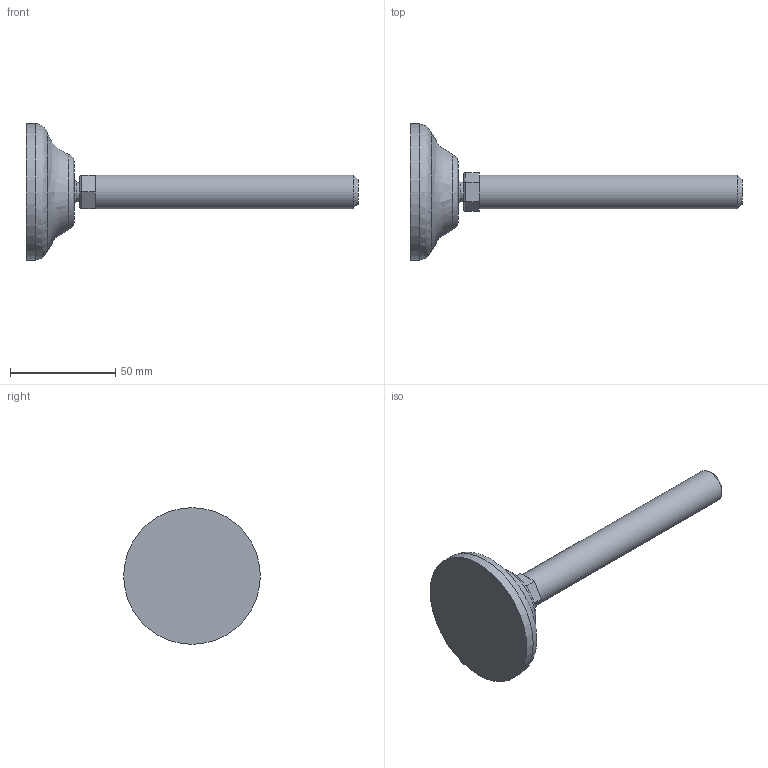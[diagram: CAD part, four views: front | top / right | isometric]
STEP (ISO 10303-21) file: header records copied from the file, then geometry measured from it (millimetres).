
FILE_DESCRIPTION(('STEP AP203'),'2;1');
FILE_NAME('10286.stp','2015-10-23T17:13:25',(''),(''),'2008.1.107','THINKDESIGN','');
FILE_SCHEMA(('CONFIG_CONTROL_DESIGN'));
Length unit declared in the file: millimetre
Bounding box: 158 x 65 x 65 mm (x, y, z)
Volume: 76486.4 mm3; surface area: 16132.2 mm2
Topology: 2 solids, 2 shells, 31 faces, 71 edges, 45 vertices
Faces by surface type: plane 17, cylinder 9, bspline 5
Full cylindrical faces by diameter (mm): 9.087 x1, 16 x1, 65 x1
Entity records: 1211 total; most frequent: CARTESIAN_POINT 418, DIRECTION 148, ORIENTED_EDGE 142, EDGE_CURVE 71, AXIS2_PLACEMENT_3D 57, VERTEX_POINT 45, VECTOR 34, LINE 34
